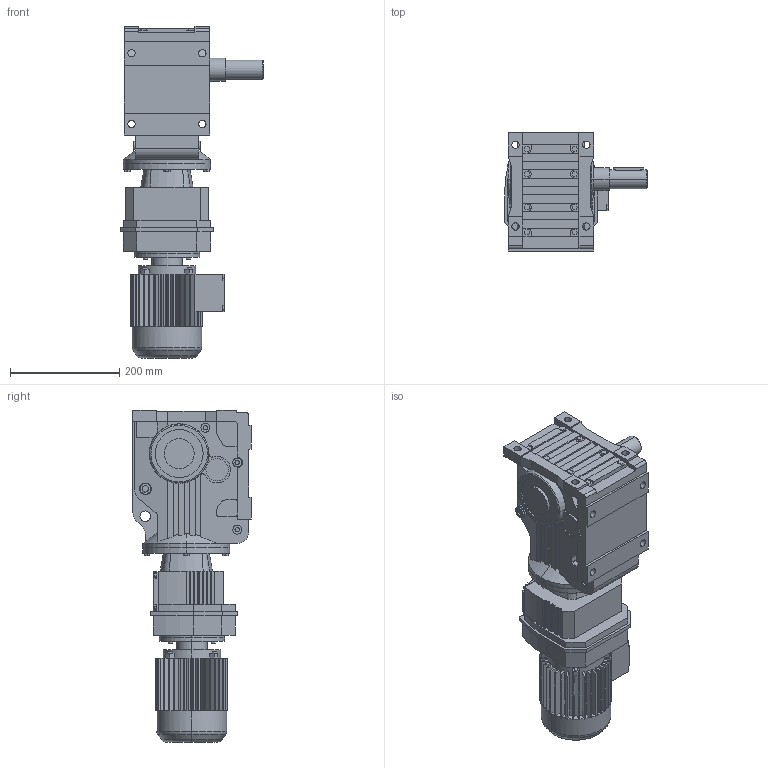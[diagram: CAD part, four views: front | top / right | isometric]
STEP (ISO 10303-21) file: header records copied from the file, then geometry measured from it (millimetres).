
FILE_DESCRIPTION(('Open CASCADE Model'),'2;1');
FILE_NAME('Open CASCADE Shape Model','2021-07-24T16:15:27',('Author'),( 'Open CASCADE'),'Open CASCADE STEP processor 6.3','Open CASCADE 6.3' ,'Unknown');
FILE_SCHEMA(('AUTOMOTIVE_DESIGN_CC2 { 1 2 10303 214 -1 1 5 4 }'));
Length unit declared in the file: millimetre
Products named in the file (5): 1_K57R37DR63-A; K37‵157_57.step; 萇儂_120-DR63-191-246-132-105.step; R_57_37.step; す瑩妗陑粣K_57.step
Assembly tree (4 placements, depth 2):
  1_K57R37DR63-A
    K37‵157_57.step
    萇儂_120-DR63-191-246-132-105.step
    R_57_37.step
    す瑩妗陑粣K_57.step
Bounding box: 262 x 217 x 609 mm (x, y, z)
Volume: 11360162.8 mm3; surface area: 714618.9 mm2
Topology: 4 solids, 4 shells, 1080 faces, 2866 edges, 1871 vertices
Faces by surface type: plane 770, cylinder 279, cone 23, torus 8
Entity records: 73981 total; most frequent: CARTESIAN_POINT 19118, DIRECTION 9532, ORIENTED_EDGE 5728, PCURVE 5728, DEFINITIONAL_REPRESENTATION 5728, LINE 5466, VECTOR 5466, EDGE_CURVE 2864
